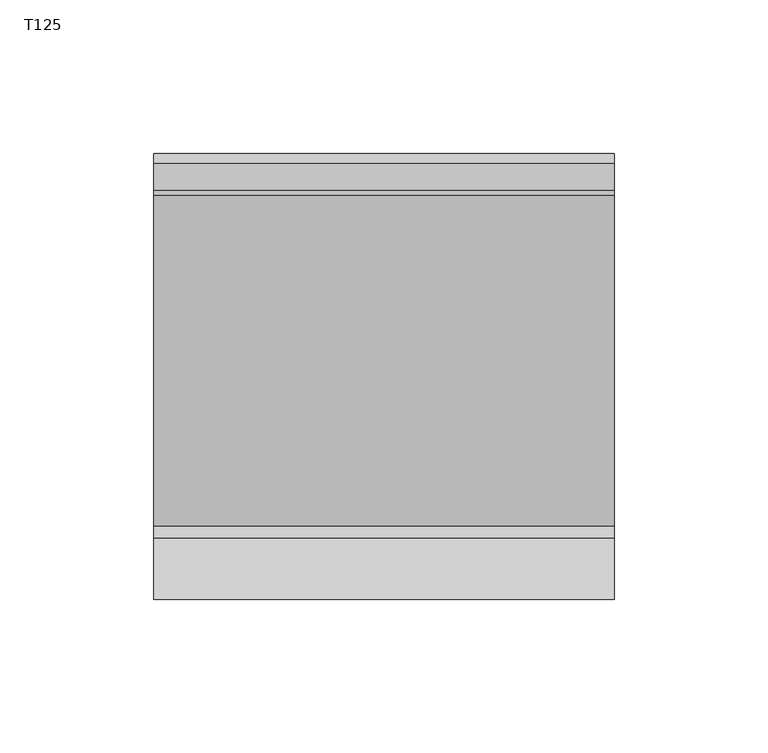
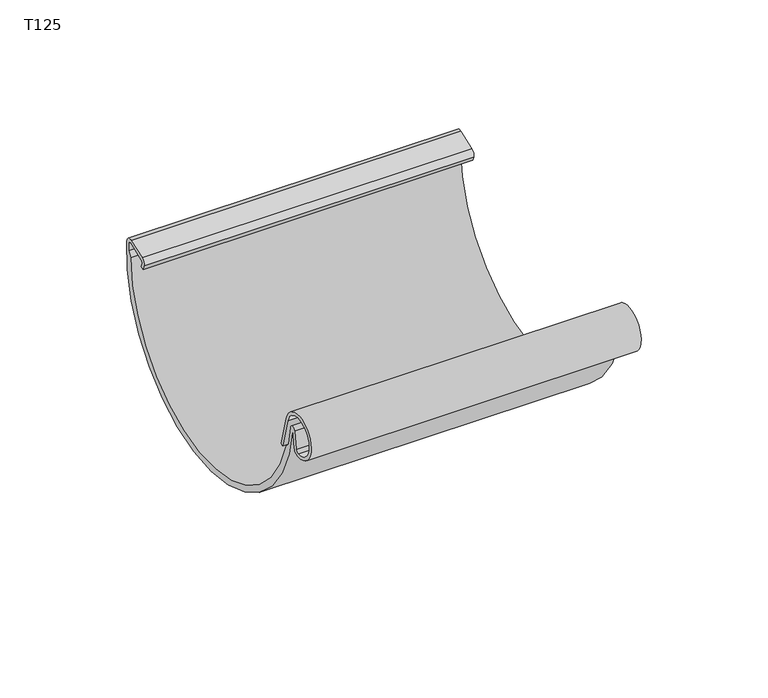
"""IFC4 building model written with IfcOpenShell, lengths in millimetres: proxy geometry, GROVIK_Gutter_Joint : T125."""

from ifc_helpers import new_model, si_unit, point, frame, frame_2d, origin, place, context, project, spatial, polyline, circle_curve, trimmed, segment, composite_curve, outline, extrude, source, transform, mapped, element, save


def t125_0be07f3f(model_context):
    return source(origin(), model_context, "Body", "SweptSolid", [
        extrude(outline(composite_curve([segment(polyline([(-0.0382142, 0.8692957), (-8.5848106, -2.241411)]), True, "CONTINUOUS"), segment(trimmed(circle_curve(frame_2d((-8.2427905, -3.1811036)), 1.0), [point((-8.5848106, -2.241411))], [point((-9.1824831, -3.5231237))], True, "CARTESIAN"), True, "CONTINUOUS"), segment(polyline([(-9.1824831, -3.5231237), (-8.4984428, -5.402509), (-9.9079817, -5.9155392), (-10.592022, -4.0361539)]), True, "CONTINUOUS"), segment(trimmed(circle_curve(frame_2d((-8.2427905, -3.1811036)), 2.5), [point((-10.592022, -4.0361539))], [point((-9.0978408, -0.831872))], False, "CARTESIAN"), True, "CONTINUOUS"), segment(polyline([(-9.0978408, -0.831872), (-0.5512444, 2.2788347)]), True, "CONTINUOUS"), segment(trimmed(circle_curve(frame_2d((0.3038059, -0.0703969)), 2.5), [point((-0.5512444, 2.2788347))], [point((2.7960251, 0.1266914))], False, "CARTESIAN"), True, "CONTINUOUS"), segment(trimmed(circle_curve(frame_2d((-62.5373106, -5.0399641)), 65.5373106), [point((2.7960251, 0.1266914))], [point((-127.746522, -11.5896068))], False, "CARTESIAN"), True, "CONTINUOUS"), segment(polyline([(-127.746522, -11.5896068), (-129.1707818, -19.6669853)]), True, "CONTINUOUS"), segment(trimmed(circle_curve(frame_2d((-132.125205, -19.1460408)), 3.0), [point((-129.1707818, -19.6669853))], [point((-132.0416155, -22.144876))], False, "CARTESIAN"), True, "CONTINUOUS"), segment(trimmed(circle_curve(frame_2d((-132.3230203, -12.0492723)), 10.0995249), [point((-132.0416155, -22.144876))], [point((-122.5881704, -9.35983))], False, "CARTESIAN"), True, "CONTINUOUS"), segment(polyline([(-122.5881704, -9.35983), (-118.5937612, -23.818208), (-120.039599, -24.2176489), (-124.0340082, -9.7592709)]), True, "CONTINUOUS"), segment(trimmed(circle_curve(frame_2d((-132.3230203, -12.0492723)), 8.5995249), [point((-124.0340082, -9.7592709))], [point((-132.0834103, -20.6454584))], True, "CARTESIAN"), True, "CONTINUOUS"), segment(trimmed(circle_curve(frame_2d((-132.125205, -19.1460408)), 1.5), [point((-132.0834103, -20.6454584))], [point((-130.6479934, -19.406513))], True, "CARTESIAN"), True, "CONTINUOUS"), segment(polyline([(-130.6479934, -19.406513), (-129.2237336, -11.3291345)]), True, "CONTINUOUS"), segment(trimmed(circle_curve(frame_2d((-127.746522, -11.5896068)), 1.5), [point((-129.2237336, -11.3291345))], [point((-126.2540315, -11.4397004))], False, "CARTESIAN"), True, "CONTINUOUS"), segment(trimmed(circle_curve(frame_2d((-62.5373106, -5.0399641)), 64.0373106), [point((-126.2540315, -11.4397004))], [point((-124.7219898, -20.331884))], True, "CARTESIAN"), True, "CONTINUOUS"), segment(polyline([(-124.7219898, -20.331884), (-122.6016917, -22.4521821)]), True, "CONTINUOUS"), segment(trimmed(circle_curve(frame_2d((-62.5373106, -5.0399641)), 62.5373106), [point((-122.6016917, -22.4521821))], [point((-0.0107582, -6.1999032))], True, "CARTESIAN"), True, "CONTINUOUS"), segment(polyline([(-0.0107582, -6.1999032), (1.486159, -3.7086147)]), True, "CONTINUOUS"), segment(trimmed(circle_curve(frame_2d((-62.5373106, -5.0399641)), 64.0373106), [point((1.486159, -3.7086147))], [point((1.3006936, 0.0084384))], True, "CARTESIAN"), True, "CONTINUOUS"), segment(trimmed(circle_curve(frame_2d((0.3038059, -0.0703969)), 1.0), [point((1.3006936, 0.0084384))], [point((-0.0382142, 0.8692957))], True, "CARTESIAN"), True, "CONTINUOUS")], self_intersect=False)), frame((-75.0, 0.0, 0.0), z_axis=(1.0, 0.0, 0.0), x_axis=(0.0, 1.0, 0.0)), (0.0, 0.0, 1.0), 150.0),
    ])


if __name__ == "__main__":
    model = new_model("IFC4")
    model_context = context("Model", 3, world=origin())
    ifc_project = project(units=[si_unit("LENGTHUNIT", "METRE", prefix="MILLI")], contexts=[model_context])
    site = spatial("IfcSite", under=ifc_project)
    building = spatial("IfcBuilding", under=site)
    placement = place(None, origin())
    t125_shape = t125_0be07f3f(model_context)
    element("IfcBuildingElementProxy", 1, Name="GROVIK_Gutter_Joint : T125", ObjectType="GROVIK_Gutter_Joint : T125", at=placement, inside=building, context=model_context, shape_type="MappedRepresentation", body=[
        mapped(t125_shape, transform((0.0, 0.0, 0.0), x_axis=(1.0, 0.0, 0.0), y_axis=(0.0, 1.0, 0.0), z_axis=(0.0, 0.0, 1.0))),
    ])
    save(model, "model.ifc")
